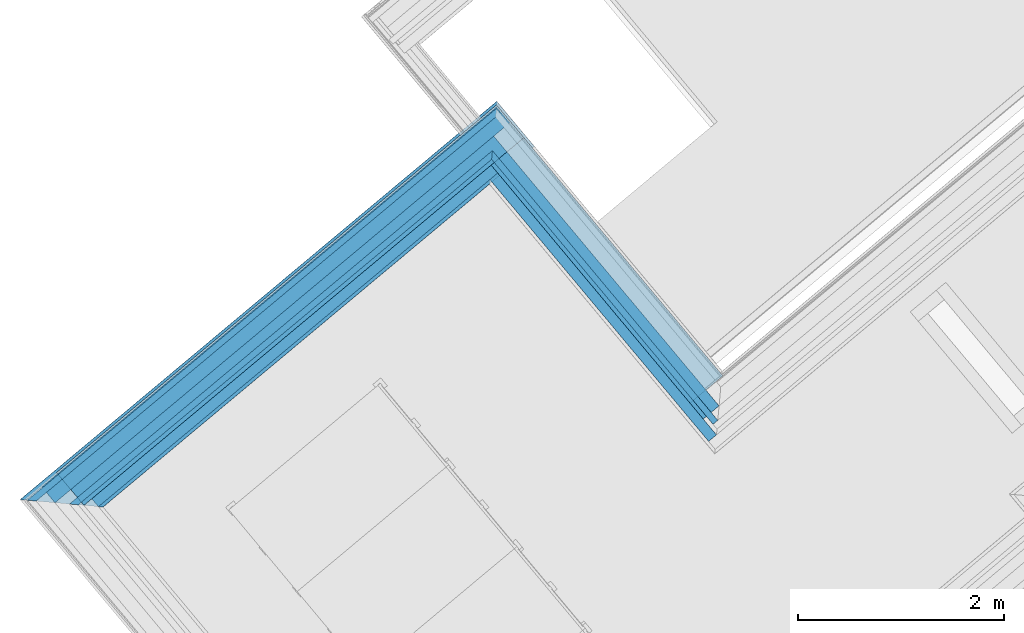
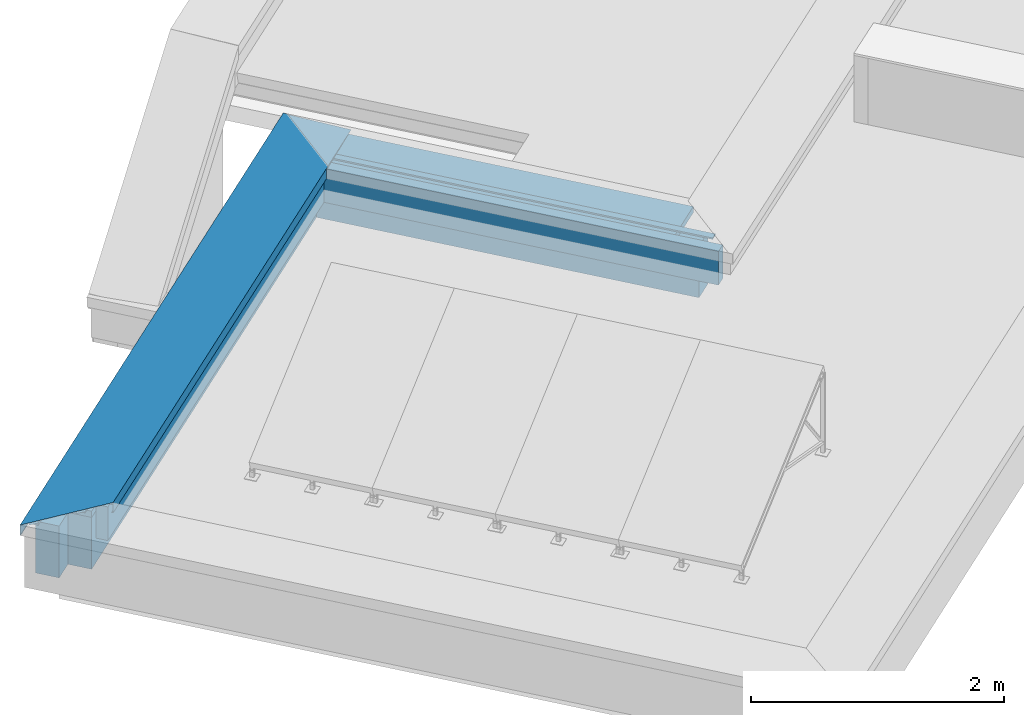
# One storey, part 3 of 15: 12 building element parts, 2 elements without a shape of their own.
"""IFC4 building model written with IfcOpenShell, lengths in metres."""

from ifc_helpers import new_model, entity, si_unit, converted_unit, derived_unit, direction, frame, origin_with_axes, place, context, subcontext, project, spatial, polygons, material, type_object, element, aggregate, save


model = new_model("IFC4")

# Units and contexts
model_context = context("Model", 3, precision=1e-05, world=origin_with_axes(), true_north=direction((0.0, 1.0)))
body_context = subcontext(model_context, "Body", "Model", "MODEL_VIEW")
ifc_project = project(units=[si_unit("LENGTHUNIT", "METRE"), si_unit("AREAUNIT", "SQUARE_METRE"), si_unit("VOLUMEUNIT", "CUBIC_METRE"), converted_unit("PLANEANGLEUNIT", "DEGREE", entity("IfcPlaneAngleMeasure", 0.0174532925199), si_unit("PLANEANGLEUNIT", "RADIAN"), dimensions=[0, 0, 0, 0, 0, 0, 0]), converted_unit("TIMEUNIT", "Year", entity("IfcTimeMeasure", 31556926.0), si_unit("TIMEUNIT", "SECOND"), dimensions=[0, 0, 1, 0, 0, 0, 0]), si_unit("MASSUNIT", "GRAM", prefix="KILO"), si_unit("THERMODYNAMICTEMPERATUREUNIT", "DEGREE_CELSIUS"), si_unit("LUMINOUSINTENSITYUNIT", "LUMEN"), si_unit("ENERGYUNIT", "JOULE", prefix="MEGA"), derived_unit("THERMALCONDUCTANCEUNIT", [(si_unit("POWERUNIT", "WATT"), 1), (si_unit("LENGTHUNIT", "METRE"), -1), (si_unit("THERMODYNAMICTEMPERATUREUNIT", "KELVIN"), -1)]), derived_unit("SPECIFICHEATCAPACITYUNIT", [(si_unit("ENERGYUNIT", "JOULE"), 1), (si_unit("MASSUNIT", "GRAM", prefix="KILO"), -1), (si_unit("THERMODYNAMICTEMPERATUREUNIT", "KELVIN"), -1)]), derived_unit("MASSDENSITYUNIT", [(si_unit("MASSUNIT", "GRAM", prefix="KILO"), 1), (si_unit("VOLUMEUNIT", "CUBIC_METRE"), -1)])], contexts=[model_context])

# Site, building, storey
site_placement = place(None, frame((-0.00153261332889, -0.00661245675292, 0.0), z_axis=(0.0, 0.0, 1.0), x_axis=(1.0, 0.0, 0.0)))
site = spatial("IfcSite", under=ifc_project, at=site_placement, Name="Site", CompositionType="ELEMENT")
building_placement = place(site_placement, origin_with_axes())
building = spatial("IfcBuilding", under=site, at=building_placement, Name="Building", CompositionType="ELEMENT")
storey_placement = place(building_placement, frame((0.0, 0.0, 11.84), z_axis=(0.0, 0.0, 1.0), x_axis=(1.0, 0.0, 0.0)))
storey = spatial("IfcBuildingStorey", under=building, at=storey_placement, Name="DA", CompositionType="ELEMENT", Elevation=11.84)

# Wall, building element parts
wall_type = type_object("IfcWallType", Name="Individuelles Profil 574 x 610", PredefinedType="NOTDEFINED")
wall_1_placement = place(storey_placement, frame((-7.43474309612, 17.8596956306, 0.0), z_axis=(0.0, 0.0, 1.0), x_axis=(0.767365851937, 0.641209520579, 0.0)))
wall_1 = element("IfcWall", 1, at=wall_1_placement, inside=storey, type_object=wall_type, Name="Wand-004", PredefinedType="NOTDEFINED")
ifc_material_1 = material(Name="Vollholz")
building_element_part_1_placement = place(wall_1_placement, origin_with_axes())
building_element_part_1 = element("IfcBuildingElementPart", 2, at=building_element_part_1_placement, material=ifc_material_1, Name="Vollholz", PredefinedType="NOTDEFINED", context=body_context, shape_type="Tessellation", body=[
    polygons([(-0.13012497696, 0.189996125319, 0.584015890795), (-0.130124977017, 0.130124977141, 0.584015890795), (-0.18998490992, 0.189984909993, 0.586106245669), (-0.13012497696, 0.190039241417, 0.575979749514), (-0.130124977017, 0.130124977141, 0.575979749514), (5.75020187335, 0.130124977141, 0.584015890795), (5.75019090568, 0.189984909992, 0.586106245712), (-0.13012497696, 0.190050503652, 0.573880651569), (5.75020187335, 0.189996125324, 0.584015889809), (5.75024498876, 0.190039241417, 0.575979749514), (5.75025625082, 0.190050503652, 0.573880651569), (5.75028808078, 0.190082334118, 0.567947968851), (5.75033072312, 0.190124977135, 0.560000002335), (-0.13012497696, 0.190124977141, 0.560000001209), (-0.13012497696, 0.190082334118, 0.567947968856), (-0.130124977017, 0.130124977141, 0.573880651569), (-0.130124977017, 0.130124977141, 0.567947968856), (-0.130124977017, 0.130124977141, 0.560000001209), (5.75033072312, 0.130124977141, 0.560000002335), (5.75028808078, 0.130124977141, 0.567947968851), (5.75025625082, 0.130124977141, 0.573880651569), (5.75024498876, 0.130124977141, 0.575979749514)], [[[1, 2, 3]], [[2, 1, 4, 5]], [[3, 2, 6, 7]], [[8, 4, 1, 3, 7, 9, 10, 11, 12, 13, 14, 15]], [[16, 5, 4, 8]], [[17, 18, 19, 20, 21, 22, 6, 2, 5, 16]], [[7, 6, 9]], [[10, 9, 6, 22]], [[11, 10, 22, 21]], [[12, 11, 21, 20]], [[13, 12, 20, 19]], [[18, 14, 13, 19]], [[18, 17, 15, 14]], [[17, 16, 8, 15]]], closed=True),
])
ifc_material_2 = material(Name="EPS 1")
building_element_part_2_placement = place(wall_1_placement, origin_with_axes())
building_element_part_2 = element("IfcBuildingElementPart", 3, at=building_element_part_2_placement, material=ifc_material_2, Name="EPS 1", PredefinedType="NOTDEFINED", context=body_context, shape_type="Tessellation", body=[
    polygons([(5.76020570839, -2.16659046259e-09, 0.498822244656), (5.76020570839, -2.16658690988e-09, 0.5), (2.16658957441e-09, -2.16659046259e-09, 0.5), (2.16659046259e-09, -2.16659046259e-09, 0.498822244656), (2.16659046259e-09, -2.16659046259e-09, 0.491006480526), (2.16659046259e-09, -2.16659046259e-09, 0.488695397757), (2.16659046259e-09, -2.16659046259e-09, 0.235000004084), (2.16658957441e-09, -2.16659046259e-09, 0.0), (5.76020570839, -2.16659046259e-09, 0.0), (5.76020570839, -2.16659046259e-09, 0.235000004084), (5.76020570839, -2.16659046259e-09, 0.488695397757), (5.76020570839, -2.16659046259e-09, 0.491006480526), (5.76020570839, 0.19999996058, 0.5), (5.76020570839, 0.19999996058, 0.498822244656), (2.35620856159e-09, 0.19999996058, 0.5), (2.35620944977e-09, 0.19999996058, 0.498822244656), (2.35620944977e-09, 0.19999996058, 0.491006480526), (2.35620944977e-09, 0.19999996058, 0.488695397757), (2.35620944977e-09, 0.19999996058, 0.235000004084), (2.35620944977e-09, 0.19999996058, 0.0), (5.76020570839, 0.19999996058, 0.0), (5.76020570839, 0.19999996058, 0.235000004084), (5.76020570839, 0.19999996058, 0.488695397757), (5.76020570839, 0.19999996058, 0.491006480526)], [[[1, 2, 3, 4, 5, 6, 7, 8, 9, 10, 11, 12]], [[13, 2, 1, 14]], [[2, 13, 15, 3]], [[4, 3, 15, 16]], [[4, 16, 17, 5]], [[5, 17, 18, 6]], [[6, 18, 19, 7]], [[7, 19, 20, 8]], [[21, 9, 8, 20]], [[22, 10, 9, 21]], [[23, 11, 10, 22]], [[24, 12, 11, 23]], [[14, 1, 12, 24]], [[13, 14, 24, 23, 22, 21, 20, 19, 18, 17, 16, 15]]], closed=True),
])
ifc_material_3 = material(Name="Brettschichtholz")
building_element_part_3_placement = place(wall_1_placement, origin_with_axes())
building_element_part_3 = element("IfcBuildingElementPart", 4, at=building_element_part_3_placement, material=ifc_material_3, Name="Brettschichtholz", PredefinedType="NOTDEFINED", context=body_context, shape_type="Tessellation", body=[
    polygons([(5.77520571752, -0.200000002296, 0.519224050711), (5.77520572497, -0.200000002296, 0.559999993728), (0.200000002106, -0.200000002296, 0.560000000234), (0.200000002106, -0.200000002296, 0.519224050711), (0.200000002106, -0.200000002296, 0.51136132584), (0.200000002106, -0.200000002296, 0.509050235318), (0.200000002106, -0.200000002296, 0.499999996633), (5.77520571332, -0.200000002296, 0.50000001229), (5.77520571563, -0.200000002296, 0.509050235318), (5.77520571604, -0.200000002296, 0.51136132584), (5.77520572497, -0.159999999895, 0.559999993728), (5.77520571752, 0.214999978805, 0.519224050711), (5.77520572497, 0.214999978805, 0.559999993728), (5.77520572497, 0.190124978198, 0.559999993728), (5.77520572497, 0.130124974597, 0.559999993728), (5.77520572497, -0.0999999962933, 0.559999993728), (0.200000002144, -0.159999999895, 0.560000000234), (0.200000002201, -0.0999999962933, 0.560000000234), (0.200000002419, 0.130124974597, 0.560000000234), (0.200000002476, 0.190124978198, 0.560000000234), (0.200000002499, 0.214999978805, 0.560000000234), (0.200000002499, 0.214999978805, 0.519224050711), (0.200000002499, 0.214999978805, 0.51136132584), (0.200000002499, 0.214999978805, 0.509050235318), (0.200000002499, 0.214999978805, 0.499999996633), (5.77520571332, 0.214999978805, 0.50000001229), (5.77520571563, 0.214999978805, 0.509050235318), (5.77520571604, 0.214999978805, 0.51136132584)], [[[1, 2, 3, 4, 5, 6, 7, 8, 9, 10]], [[11, 2, 1, 12, 13, 14, 15, 16]], [[2, 11, 17, 3]], [[4, 3, 17, 18, 19, 20, 21, 22]], [[4, 22, 23, 5]], [[5, 23, 24, 6]], [[6, 24, 25, 7]], [[7, 25, 26, 8]], [[27, 9, 8, 26]], [[28, 10, 9, 27]], [[12, 1, 10, 28]], [[13, 12, 28, 27, 26, 25, 24, 23, 22, 21]], [[14, 13, 21, 20]], [[15, 14, 20, 19]], [[16, 15, 19, 18]], [[11, 16, 18, 17]]], closed=True),
])
ifc_material_4 = material(Name="Stahlbeton Wand Garage")
building_element_part_4_placement = place(wall_1_placement, origin_with_axes())
building_element_part_4 = element("IfcBuildingElementPart", 5, at=building_element_part_4_placement, material=ifc_material_4, Name="Stahlbeton Wand Garage", PredefinedType="NOTDEFINED", context=body_context, shape_type="Tessellation", body=[
    polygons([(5.56020574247, -0.200000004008, 0.498822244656), (5.56020574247, -0.2, 0.5), (0.19999999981, -0.2, 0.5), (0.199999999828, -0.200000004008, 0.498822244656), (0.199999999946, -0.200000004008, 0.491006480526), (0.199999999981, -0.200000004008, 0.488695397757), (0.200000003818, -0.200000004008, 0.235000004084), (5.56020574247, -0.200000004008, 0.235000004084), (5.56020574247, -0.200000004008, 0.488695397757), (5.56020574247, -0.200000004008, 0.491006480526), (5.56020574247, 0.0, 0.5), (5.56020574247, 0.0, 0.498822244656), (0.2, 0.0, 0.5), (0.200000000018, 0.0, 0.498822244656), (0.200000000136, 0.0, 0.491006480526), (0.200000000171, 0.0, 0.488695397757), (0.200000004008, 0.0, 0.235000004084), (5.56020574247, -0.2, 0.0), (0.19999999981, -0.2, 0.0), (5.56020574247, 0.0, 0.488695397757), (5.56020574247, 0.0, 0.235000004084), (5.56020574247, 0.0, 0.491006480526), (5.56020574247, 0.0, 0.0), (0.2, 0.0, 0.0)], [[[1, 2, 3, 4, 5, 6, 7, 8, 9, 10]], [[11, 2, 1, 12]], [[2, 11, 13, 3]], [[4, 3, 13, 14]], [[4, 14, 15, 5]], [[5, 15, 16, 6]], [[6, 16, 17, 7]], [[18, 8, 7, 19]], [[20, 9, 8, 21]], [[22, 10, 9, 20]], [[12, 1, 10, 22]], [[11, 12, 22, 20, 21, 23, 24, 17, 16, 15, 14, 13]], [[7, 17, 24, 19]], [[21, 8, 18, 23]], [[23, 18, 19, 24]]], closed=True),
])
building_element_part_5_placement = place(wall_1_placement, origin_with_axes())
building_element_part_5 = element("IfcBuildingElementPart", 6, at=building_element_part_5_placement, material=ifc_material_1, Name="Vollholz", PredefinedType="NOTDEFINED", context=body_context, shape_type="Tessellation", body=[
    polygons([(5.46020575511, -0.1, 0.573880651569), (5.46020575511, -0.160110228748, 0.573880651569), (5.46020575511, -0.160063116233, 0.567947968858), (5.46020575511, -0.1, 0.567947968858), (5.46020575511, -0.1, 0.575979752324), (0.160110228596, -0.160110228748, 0.573880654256), (0.160063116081, -0.160063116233, 0.567947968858), (0.159999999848, -0.16, 0.560000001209), (5.46020575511, -0.16, 0.560000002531), (5.46020575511, -0.1, 0.560000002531), (0.159999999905, -0.1, 0.560000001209), (0.160063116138, -0.1, 0.567947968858), (0.160110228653, -0.1, 0.573880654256), (0.0999999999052, -0.1, 0.575979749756)], [[[1, 2, 3, 4]], [[5, 2, 1]], [[3, 2, 6, 7, 8, 9]], [[4, 3, 9, 10]], [[5, 1, 4, 10, 11, 12, 13, 14]], [[2, 5, 14, 6]], [[6, 13, 12, 7]], [[7, 12, 11, 8]], [[10, 9, 8, 11]], [[13, 6, 14]]], closed=True),
])
building_element_part_6_placement = place(wall_1_placement, origin_with_axes())
building_element_part_6 = element("IfcBuildingElementPart", 7, at=building_element_part_6_placement, material=ifc_material_2, Name="EPS 1", PredefinedType="NOTDEFINED", context=body_context, shape_type="Tessellation", body=[
    polygons([(5.36020574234, -0.30000000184, 0.519224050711), (5.36020574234, -0.30000000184, 0.560000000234), (0.300000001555, -0.30000000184, 0.560000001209), (0.300000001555, -0.30000000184, 0.519224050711), (0.300000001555, -0.30000000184, 0.51136132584), (0.300000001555, -0.30000000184, 0.509050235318), (0.300000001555, -0.30000000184, 0.499999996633), (0.300000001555, -0.30000000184, 0.498822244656), (0.300000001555, -0.30000000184, 0.491006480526), (0.300000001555, -0.30000000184, 0.488695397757), (0.300000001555, -0.30000000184, 0.235000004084), (5.36020574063, -0.30000000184, 0.235000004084), (5.36020574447, -0.30000000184, 0.488695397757), (5.3602057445, -0.30000000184, 0.491006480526), (5.36020574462, -0.30000000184, 0.498822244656), (5.36020574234, -0.30000000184, 0.499999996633), (5.36020574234, -0.30000000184, 0.509050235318), (5.36020574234, -0.30000000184, 0.51136132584), (5.36020574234, -0.200000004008, 0.560000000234), (5.36020574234, -0.200000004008, 0.519224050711), (0.30000000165, -0.200000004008, 0.560000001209), (0.30000000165, -0.200000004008, 0.519224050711), (0.30000000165, -0.200000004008, 0.51136132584), (0.30000000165, -0.200000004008, 0.509050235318), (0.30000000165, -0.200000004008, 0.499999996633), (0.30000000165, -0.200000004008, 0.498822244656), (0.30000000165, -0.200000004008, 0.491006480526), (0.30000000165, -0.200000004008, 0.488695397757), (0.30000000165, -0.200000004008, 0.235000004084), (5.36020574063, -0.200000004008, 0.235000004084), (5.36020574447, -0.200000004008, 0.488695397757), (5.3602057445, -0.200000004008, 0.491006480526), (5.36020574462, -0.200000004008, 0.498822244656), (5.36020574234, -0.200000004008, 0.499999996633), (5.36020574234, -0.200000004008, 0.509050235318), (5.36020574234, -0.200000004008, 0.51136132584)], [[[1, 2, 3, 4, 5, 6, 7, 8, 9, 10, 11, 12, 13, 14, 15, 16, 17, 18]], [[19, 2, 1, 20]], [[2, 19, 21, 3]], [[4, 3, 21, 22]], [[4, 22, 23, 5]], [[5, 23, 24, 6]], [[6, 24, 25, 7]], [[7, 25, 26, 8]], [[8, 26, 27, 9]], [[9, 27, 28, 10]], [[10, 28, 29, 11]], [[30, 12, 11, 29]], [[31, 13, 12, 30]], [[32, 14, 13, 31]], [[33, 15, 14, 32]], [[34, 16, 15, 33]], [[35, 17, 16, 34]], [[36, 18, 17, 35]], [[20, 1, 18, 36]], [[19, 20, 36, 35, 34, 33, 32, 31, 30, 29, 28, 27, 26, 25, 24, 23, 22, 21]]], closed=True),
])
ifc_material_5 = material(Name="Holzwerkstoff")
building_element_part_7_placement = place(wall_1_placement, origin_with_axes())
building_element_part_7 = element("IfcBuildingElementPart", 8, at=building_element_part_7_placement, material=ifc_material_5, Name="Holzwerkstoff", PredefinedType="NOTDEFINED", context=body_context, shape_type="Tessellation", body=[
    polygons([(0.330698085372, -0.330698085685, 0.587937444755), (-0.239276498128, 0.239276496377, 0.608570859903), (0.330698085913, 0.23999703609, 0.587937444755), (5.80020278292, -0.330698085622, 0.587937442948), (5.79948224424, 0.239276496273, 0.608570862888), (0.330695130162, 0.239999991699, 0.587852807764), (5.80020278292, 0.239997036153, 0.587937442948), (5.80020573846, 0.239999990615, 0.587852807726), (0.330634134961, -0.330634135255, 0.586106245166), (0.330634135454, 0.189985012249, 0.586106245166), (0.330280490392, -0.330280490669, 0.575979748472), (0.330207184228, -0.330207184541, 0.573880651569), (0.329999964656, -0.329999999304, 0.567947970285), (5.23020580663, -0.329999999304, 0.567947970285), (5.40009552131, -0.330207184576, 0.573880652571), (5.46020574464, -0.330280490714, 0.575979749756), (5.69033072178, -0.33056113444, 0.584015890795), (5.75019065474, -0.330634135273, 0.586106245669), (5.80020573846, -0.330695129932, 0.587852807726), (0.330561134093, -0.330561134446, 0.584015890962), (5.75019053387, 0.189984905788, 0.586106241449), (0.330561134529, 0.130125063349, 0.584015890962), (0.33028049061, -0.100000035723, 0.575979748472), (0.33020718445, -0.160110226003, 0.573880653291), (5.40009551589, -0.160110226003, 0.573880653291), (5.46020574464, -0.0999999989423, 0.575979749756), (5.69033072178, 0.130124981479, 0.584015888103)], [[[1, 2, 3]], [[2, 1, 4, 5]], [[6, 3, 2, 5, 7, 8]], [[9, 1, 3, 6, 10]], [[11, 12, 13, 14, 15, 16, 17, 18, 19, 4, 1, 9, 20]], [[7, 5, 4]], [[8, 7, 4, 19]], [[10, 6, 8, 21]], [[20, 9, 10, 22]], [[12, 11, 23, 24]], [[13, 12, 24]], [[13, 24, 25, 14]], [[15, 14, 25]], [[16, 15, 25, 26]], [[16, 26, 27, 17]], [[27, 21, 18, 17]], [[21, 8, 19, 18]], [[23, 11, 20, 22]], [[22, 10, 21, 27]], [[24, 23, 26, 25]], [[23, 22, 27, 26]]], closed=True),
])
ifc_material_6 = material(Name="Stahl")
building_element_part_8_placement = place(wall_1_placement, origin_with_axes())
building_element_part_8 = element("IfcBuildingElementPart", 9, at=building_element_part_8_placement, material=ifc_material_6, Name="Stahl", PredefinedType="NOTDEFINED", context=body_context, shape_type="Tessellation", body=[
    polygons([(-0.240150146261, 0.240150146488, 0.567947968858), (-0.240150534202, 0.24015053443, 0.573880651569), (-0.240150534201, 0.241500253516, 0.573880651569), (-0.240150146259, 0.241500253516, 0.567947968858), (-0.240146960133, 0.240146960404, 0.519224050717), (-0.24014644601, 0.240146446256, 0.51136132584), (-0.238231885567, 0.240146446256, 0.511361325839), (5.80035219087, 0.240146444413, 0.51136132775), (5.80170600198, 0.240146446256, 0.51136132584), (5.80170600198, 0.240152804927, 0.608602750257), (5.80035854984, 0.240152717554, 0.608602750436), (-0.202730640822, 0.240152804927, 0.608602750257), (-0.240152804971, 0.240152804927, 0.608602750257), (-0.240152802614, 0.240152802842, 0.608570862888), (-0.240151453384, 0.240151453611, 0.587937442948), (-0.240151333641, 0.240151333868, 0.586106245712), (-0.240151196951, 0.240151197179, 0.584015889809), (-0.240150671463, 0.240150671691, 0.575979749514), (-0.240149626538, 0.240149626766, 0.55999999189), (-0.240150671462, 0.241500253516, 0.575979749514), (-0.238231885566, 0.241500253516, 0.511361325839), (-0.240146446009, 0.241500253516, 0.51136132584), (-0.240146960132, 0.241500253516, 0.519224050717), (-0.240149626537, 0.241500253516, 0.55999999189), (-0.24015119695, 0.241500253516, 0.584015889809), (-0.240151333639, 0.241500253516, 0.586106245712), (-0.240151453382, 0.241500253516, 0.587937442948), (-0.240152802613, 0.241500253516, 0.608570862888), (-0.24015280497, 0.241500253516, 0.608602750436), (-0.20273064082, 0.241500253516, 0.608602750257), (-0.241500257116, 0.241500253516, 0.610006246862), (5.80170600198, 0.241500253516, 0.610006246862), (5.80170600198, 0.241500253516, 0.510007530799), (-0.239585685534, 0.241500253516, 0.510007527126), (-0.231373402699, 0.233287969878, 0.518219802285), (-0.232283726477, 0.232283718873, 0.51922405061), (5.79248947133, 0.232283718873, 0.51922405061), (5.80035219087, 0.238231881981, 0.51136132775), (5.80170599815, 0.238231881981, 0.51136132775), (5.80170600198, 0.239585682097, 0.510007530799), (5.80170599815, 0.202730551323, 0.608602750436), (5.80035854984, 0.202730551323, 0.608602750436), (-0.201849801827, 0.239276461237, 0.608570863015), (-0.201934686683, 0.239360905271, 0.60857393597), (5.79956660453, 0.239360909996, 0.608573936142), (5.79948224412, 0.239276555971, 0.608570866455), (-0.202730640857, 0.202730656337, 0.608602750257), (-0.201849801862, 0.201849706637, 0.608570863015), (0.332051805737, -0.332051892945, 0.58924311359), (5.26557531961, -0.332051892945, 0.58924311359), (5.79948224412, 0.201849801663, 0.608570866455), (-0.240542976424, 0.240542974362, 0.509050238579), (5.80074872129, 0.240542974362, 0.509050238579), (-0.238231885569, 0.238231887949, 0.51136132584), (-0.231373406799, 0.231373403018, 0.518219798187), (5.79349372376, 0.231373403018, 0.518219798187), (0.332051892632, -0.330698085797, 0.587937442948), (0.332051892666, -0.294630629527, 0.589243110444), (5.22950765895, -0.330698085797, 0.587937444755), (0.332051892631, -0.332051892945, 0.491006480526), (0.332051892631, -0.332051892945, 0.489652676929), (5.23006841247, -0.332051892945, 0.489652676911), (5.23142221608, -0.332051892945, 0.491006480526), (5.22950765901, -0.332051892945, 0.491006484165), (5.22950766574, -0.332051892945, 0.498822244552), (5.22950766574, -0.332051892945, 0.499999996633), (5.22950766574, -0.332051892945, 0.509050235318), (5.22950766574, -0.332051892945, 0.51136132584), (5.22950766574, -0.332051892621, 0.519224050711), (5.22950766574, -0.332051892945, 0.55999999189), (5.22950766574, -0.332051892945, 0.567947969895), (5.22950766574, -0.332051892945, 0.573880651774), (5.22950766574, -0.332051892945, 0.575979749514), (5.22950766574, -0.332051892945, 0.584015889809), (5.22950766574, -0.332051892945, 0.586106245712), (5.22950765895, -0.332051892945, 0.587937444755), (0.332051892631, -0.332051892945, 0.587937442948), (0.332051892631, -0.332051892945, 0.586106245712), (0.332051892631, -0.332051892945, 0.584015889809), (0.332051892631, -0.332051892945, 0.575979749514), (0.332051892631, -0.332051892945, 0.573880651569), (0.332051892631, -0.332051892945, 0.567947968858), (0.332051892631, -0.332051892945, 0.55999999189), (0.332051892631, -0.332051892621, 0.519224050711), (0.332051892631, -0.332051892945, 0.51136132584), (0.332051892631, -0.332051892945, 0.509050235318), (0.332051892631, -0.332051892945, 0.499999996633), (0.332051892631, -0.332051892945, 0.498822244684), (0.332051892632, -0.330698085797, 0.491006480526), (0.332051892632, -0.330698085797, 0.498822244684), (0.332051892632, -0.330698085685, 0.499999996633), (0.332051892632, -0.330698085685, 0.509050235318), (0.332051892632, -0.330698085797, 0.51136132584), (0.332051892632, -0.330698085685, 0.519224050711), (0.332051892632, -0.330698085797, 0.55999999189), (0.332051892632, -0.330698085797, 0.567947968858), (0.332051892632, -0.330698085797, 0.573880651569), (0.332051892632, -0.330698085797, 0.575979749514), (0.332051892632, -0.330698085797, 0.584015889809), (0.332051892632, -0.330698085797, 0.586106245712), (5.22950766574, -0.330698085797, 0.586106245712), (5.22950766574, -0.330698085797, 0.584015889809), (5.22950766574, -0.330698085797, 0.575979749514), (5.22950766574, -0.330698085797, 0.573880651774), (5.22950766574, -0.330698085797, 0.567947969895), (5.22950766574, -0.330698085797, 0.55999999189), (5.22950766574, -0.330698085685, 0.519224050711), (5.22950766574, -0.330698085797, 0.51136132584), (5.22950766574, -0.330698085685, 0.509050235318), (5.22950766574, -0.330698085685, 0.499999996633), (5.22950766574, -0.330698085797, 0.498822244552), (5.22950765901, -0.330698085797, 0.491006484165), (0.332051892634, -0.32878353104, 0.491006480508), (0.332051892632, -0.33013733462, 0.489652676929), (0.331094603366, -0.331094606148, 0.4886954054), (5.22911114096, -0.331094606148, 0.4886954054), (5.23142221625, -0.328783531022, 0.491006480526), (5.23142221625, -0.330698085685, 0.491006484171), (0.330698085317, -0.330698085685, 0.491006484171), (5.23832767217, -0.323792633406, 0.497911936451), (5.23732342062, -0.32288233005, 0.498822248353), (0.322882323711, -0.32288233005, 0.498822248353), (0.330698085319, -0.328783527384, 0.491006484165), (0.323792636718, -0.321878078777, 0.497911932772), (5.23832767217, -0.321878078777, 0.497911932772)], [[[1, 2, 3, 4]], [[5, 6, 7, 8, 9, 10, 11, 12, 13, 14, 15, 16, 17, 18, 2, 1, 19]], [[2, 18, 20, 3]], [[21, 22, 23, 24, 4, 3, 20, 25, 26, 27, 28, 29, 30, 31, 32, 33, 34]], [[19, 1, 4, 24]], [[6, 5, 23, 22]], [[6, 22, 21, 7]], [[35, 36, 37, 8, 7]], [[38, 39, 9, 8]], [[40, 33, 32, 41, 10, 9, 39]], [[41, 42, 11, 10]], [[43, 44, 12, 11, 45, 46]], [[29, 13, 12, 30]], [[28, 14, 13, 29]], [[27, 15, 14, 28]], [[15, 27, 26, 16]], [[16, 26, 25, 17]], [[18, 17, 25, 20]], [[5, 19, 24, 23]], [[47, 31, 30, 12]], [[31, 47, 48, 49, 50, 51, 42, 41, 32]], [[52, 34, 33, 53]], [[52, 54, 7, 21, 34]], [[36, 35, 55]], [[36, 55, 56, 37]], [[56, 38, 8, 37]], [[54, 55, 35, 7]], [[55, 54, 52, 53, 40, 39, 38, 56]], [[53, 33, 40]], [[51, 46, 45, 11, 42]], [[43, 48, 47, 12, 44]], [[57, 58, 43, 46, 59]], [[48, 43, 58, 49]], [[60, 61, 62, 63, 64, 65, 66, 67, 68, 69, 70, 71, 72, 73, 74, 75, 76, 50, 49, 77, 78, 79, 80, 81, 82, 83, 84, 85, 86, 87, 88]], [[76, 59, 46, 51, 50]], [[58, 57, 77, 49]], [[89, 90, 91, 92, 93, 94, 95, 96, 97, 98, 99, 100, 57, 59, 101, 102, 103, 104, 105, 106, 107, 108, 109, 110, 111, 112]], [[89, 113, 114, 61, 60]], [[61, 115, 116, 62]], [[116, 117, 118, 63, 62]], [[112, 64, 63, 118]], [[112, 111, 65, 64]], [[66, 65, 111, 110]], [[110, 109, 67, 66]], [[68, 67, 109, 108]], [[108, 107, 69, 68]], [[107, 106, 70, 69]], [[71, 70, 106, 105]], [[72, 71, 105, 104]], [[73, 72, 104, 103]], [[103, 102, 74, 73]], [[102, 101, 75, 74]], [[59, 76, 75, 101]], [[77, 57, 100, 78]], [[79, 78, 100, 99]], [[80, 79, 99, 98]], [[81, 80, 98, 97]], [[96, 82, 81, 97]], [[95, 83, 82, 96]], [[83, 95, 94, 84]], [[93, 85, 84, 94]], [[92, 86, 85, 93]], [[91, 87, 86, 92]], [[90, 88, 87, 91]], [[89, 60, 88, 90]], [[119, 89, 112, 118, 120, 121, 122]], [[113, 89, 119, 123]], [[114, 113, 123, 124, 125, 117, 116, 115]], [[114, 115, 61]], [[117, 125, 120, 118]], [[121, 120, 125]], [[124, 122, 121, 125]], [[124, 123, 119, 122]]], closed=True),
])
aggregate(wall_1, [building_element_part_1, building_element_part_2, building_element_part_3, building_element_part_4, building_element_part_5, building_element_part_6, building_element_part_7, building_element_part_8])

wall_2_placement = place(storey_placement, frame((-3.16803107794, 21.4249524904, 0.0), z_axis=(0.0, 0.0, 1.0), x_axis=(0.641209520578, -0.767365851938, 0.0)))
wall_2 = element("IfcWall", 10, at=wall_2_placement, inside=storey, type_object=wall_type, Name="Wand-005", PredefinedType="NOTDEFINED")
building_element_part_9_placement = place(wall_2_placement, origin_with_axes())
building_element_part_9 = element("IfcBuildingElementPart", 11, at=building_element_part_9_placement, material=ifc_material_3, Name="Brettschichtholz", PredefinedType="NOTDEFINED", context=body_context, shape_type="Tessellation", body=[
    polygons([(0.200000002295, 0.214999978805, 0.519224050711), (0.200000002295, 0.214999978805, 0.560000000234), (3.2179191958, 0.214999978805, 0.559999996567), (3.2179191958, 0.214999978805, 0.519224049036), (3.2179191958, 0.214999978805, 0.511361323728), (3.2179191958, 0.214999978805, 0.509050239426), (3.2179191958, 0.214999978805, 0.500000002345), (0.200000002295, 0.214999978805, 0.499999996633), (0.200000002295, 0.214999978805, 0.509050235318), (0.200000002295, 0.214999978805, 0.51136132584), (0.200000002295, 0.190124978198, 0.560000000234), (0.200000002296, -0.200000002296, 0.519224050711), (0.200000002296, -0.200000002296, 0.560000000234), (0.200000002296, -0.159999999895, 0.560000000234), (0.200000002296, -0.0999999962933, 0.560000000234), (0.200000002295, 0.130124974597, 0.560000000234), (3.2179191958, 0.190124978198, 0.559999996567), (3.2179191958, 0.130124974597, 0.559999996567), (3.2179191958, -0.0999999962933, 0.559999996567), (3.2179191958, -0.159999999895, 0.559999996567), (3.2179191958, -0.200000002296, 0.559999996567), (3.2179191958, -0.200000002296, 0.519224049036), (3.2179191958, -0.200000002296, 0.511361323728), (3.2179191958, -0.200000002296, 0.509050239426), (3.2179191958, -0.200000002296, 0.500000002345), (0.200000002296, -0.200000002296, 0.499999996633), (0.200000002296, -0.200000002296, 0.509050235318), (0.200000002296, -0.200000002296, 0.51136132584)], [[[1, 2, 3, 4, 5, 6, 7, 8, 9, 10]], [[11, 2, 1, 12, 13, 14, 15, 16]], [[2, 11, 17, 3]], [[4, 3, 17, 18, 19, 20, 21, 22]], [[4, 22, 23, 5]], [[5, 23, 24, 6]], [[6, 24, 25, 7]], [[26, 8, 7, 25]], [[27, 9, 8, 26]], [[28, 10, 9, 27]], [[12, 1, 10, 28]], [[13, 12, 28, 27, 26, 25, 24, 23, 22, 21]], [[14, 13, 21, 20]], [[15, 14, 20, 19]], [[16, 15, 19, 18]], [[11, 16, 18, 17]]], closed=True),
])
building_element_part_10_placement = place(wall_2_placement, origin_with_axes())
building_element_part_10 = element("IfcBuildingElementPart", 12, at=building_element_part_10_placement, material=ifc_material_4, Name="Stahlbeton Wand Garage", PredefinedType="NOTDEFINED", context=body_context, shape_type="Tessellation", body=[
    polygons([(0.200000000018, 0.0, 0.498822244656), (0.2, 0.0, 0.5), (3.41791915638, 0.0, 0.5), (3.41791915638, 0.0, 0.498822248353), (3.41791915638, 0.0, 0.491006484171), (3.41791915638, 0.0, 0.488695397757), (3.41791915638, 0.0, 0.235000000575), (3.41791915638, 0.0, 0.0), (0.2, 0.0, 0.0), (0.200000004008, 0.0, 0.235000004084), (0.200000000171, 0.0, 0.488695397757), (0.200000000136, 0.0, 0.491006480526), (0.2, -0.2, 0.5), (0.200000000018, -0.2, 0.498822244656), (3.41791915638, -0.2, 0.5), (3.41791915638, -0.2, 0.498822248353), (3.41791915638, -0.2, 0.491006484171), (3.41791915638, -0.2, 0.488695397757), (3.41791915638, -0.200000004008, 0.235000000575), (3.41791915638, -0.2, 0.0), (0.2, -0.2, 0.0), (0.200000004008, -0.200000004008, 0.235000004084), (0.200000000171, -0.2, 0.488695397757), (0.200000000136, -0.2, 0.491006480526)], [[[1, 2, 3, 4, 5, 6, 7, 8, 9, 10, 11, 12]], [[13, 2, 1, 14]], [[2, 13, 15, 3]], [[4, 3, 15, 16]], [[4, 16, 17, 5]], [[5, 17, 18, 6]], [[6, 18, 19, 7]], [[7, 19, 20, 8]], [[21, 9, 8, 20]], [[22, 10, 9, 21]], [[23, 11, 10, 22]], [[24, 12, 11, 23]], [[14, 1, 12, 24]], [[13, 14, 24, 23, 22, 19, 18, 17, 16, 15]], [[22, 21, 20, 19]]], closed=True),
])
building_element_part_11_placement = place(wall_2_placement, origin_with_axes())
building_element_part_11 = element("IfcBuildingElementPart", 13, at=building_element_part_11_placement, material=ifc_material_1, Name="Vollholz", PredefinedType="NOTDEFINED", context=body_context, shape_type="Tessellation", body=[
    polygons([(0.160110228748, -0.160110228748, 0.573880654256), (0.160110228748, -0.1, 0.573880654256), (0.160063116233, -0.1, 0.567947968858), (0.160063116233, -0.160063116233, 0.567947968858), (0.1, -0.1, 0.575979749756), (3.51791915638, -0.1, 0.575979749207), (3.51791915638, -0.1, 0.573880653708), (3.51791915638, -0.1, 0.567947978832), (3.51791915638, -0.1, 0.560000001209), (0.16, -0.1, 0.560000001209), (0.16, -0.16, 0.560000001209), (3.51791915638, -0.16, 0.560000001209), (3.51791915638, -0.160063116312, 0.567947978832), (3.51791915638, -0.160110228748, 0.573880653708)], [[[1, 2, 3, 4]], [[5, 2, 1]], [[2, 5, 6, 7, 8, 9, 10, 3]], [[4, 3, 10, 11]], [[1, 4, 11, 12, 13, 14]], [[5, 1, 14, 6]], [[7, 6, 14]], [[7, 14, 13, 8]], [[8, 13, 12, 9]], [[11, 10, 9, 12]]], closed=True),
])
building_element_part_12_placement = place(wall_2_placement, origin_with_axes())
building_element_part_12 = element("IfcBuildingElementPart", 14, at=building_element_part_12_placement, material=ifc_material_2, Name="EPS 1", PredefinedType="NOTDEFINED", context=body_context, shape_type="Tessellation", body=[
    polygons([(0.30000000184, -0.200000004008, 0.519224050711), (0.30000000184, -0.200000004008, 0.560000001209), (3.61791915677, -0.200000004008, 0.560000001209), (3.61791915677, -0.200000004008, 0.519224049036), (3.61791915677, -0.200000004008, 0.511361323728), (3.61791915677, -0.200000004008, 0.509050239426), (3.61791915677, -0.200000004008, 0.5), (3.61791915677, -0.200000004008, 0.498822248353), (3.61791915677, -0.200000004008, 0.491006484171), (3.61791915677, -0.200000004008, 0.488695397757), (3.61791915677, -0.200000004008, 0.235000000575), (0.30000000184, -0.200000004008, 0.235000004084), (0.30000000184, -0.200000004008, 0.488695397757), (0.30000000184, -0.200000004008, 0.491006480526), (0.30000000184, -0.200000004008, 0.498822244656), (0.30000000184, -0.200000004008, 0.499999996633), (0.30000000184, -0.200000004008, 0.509050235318), (0.30000000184, -0.200000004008, 0.51136132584), (0.30000000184, -0.30000000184, 0.560000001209), (0.30000000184, -0.30000000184, 0.519224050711), (3.61791915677, -0.30000000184, 0.560000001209), (3.61791915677, -0.30000000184, 0.519224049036), (3.61791915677, -0.30000000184, 0.511361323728), (3.61791915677, -0.30000000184, 0.509050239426), (3.61791915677, -0.30000000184, 0.5), (3.61791915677, -0.30000000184, 0.498822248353), (3.61791915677, -0.30000000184, 0.491006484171), (3.61791915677, -0.30000000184, 0.488695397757), (3.61791915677, -0.30000000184, 0.235000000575), (0.30000000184, -0.30000000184, 0.235000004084), (0.30000000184, -0.30000000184, 0.488695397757), (0.30000000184, -0.30000000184, 0.491006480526), (0.30000000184, -0.30000000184, 0.498822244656), (0.30000000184, -0.30000000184, 0.499999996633), (0.30000000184, -0.30000000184, 0.509050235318), (0.30000000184, -0.30000000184, 0.51136132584)], [[[1, 2, 3, 4, 5, 6, 7, 8, 9, 10, 11, 12, 13, 14, 15, 16, 17, 18]], [[19, 2, 1, 20]], [[2, 19, 21, 3]], [[4, 3, 21, 22]], [[4, 22, 23, 5]], [[5, 23, 24, 6]], [[6, 24, 25, 7]], [[7, 25, 26, 8]], [[8, 26, 27, 9]], [[9, 27, 28, 10]], [[10, 28, 29, 11]], [[30, 12, 11, 29]], [[31, 13, 12, 30]], [[32, 14, 13, 31]], [[33, 15, 14, 32]], [[34, 16, 15, 33]], [[35, 17, 16, 34]], [[36, 18, 17, 35]], [[20, 1, 18, 36]], [[19, 20, 36, 35, 34, 33, 32, 31, 30, 29, 28, 27, 26, 25, 24, 23, 22, 21]]], closed=True),
])
aggregate(wall_2, [building_element_part_9, building_element_part_10, building_element_part_11, building_element_part_12])

save(model, "model.ifc")
